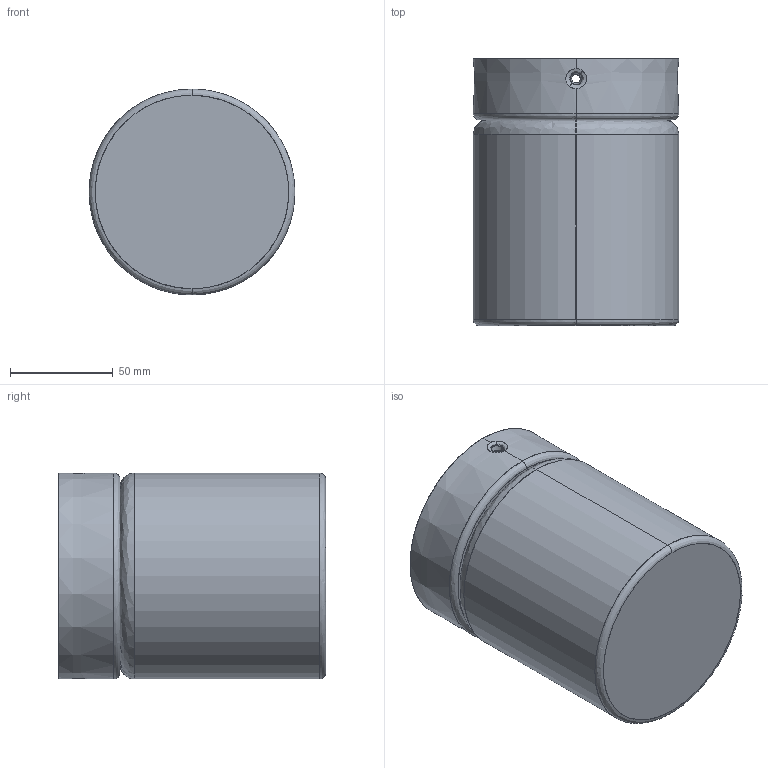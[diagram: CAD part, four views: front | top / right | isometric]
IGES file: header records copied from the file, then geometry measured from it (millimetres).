
Start section: SolidWorks IGES file using analytic representation for surfaces
Global section: file name: Z:\Modele 3D_WWW\_KOLEKCJE_WWW\CAYO-9505-8055\CAYO-9505-8055.IGS; native system: SolidWorks 2021; preprocessor: SolidWorks 2021; author: gabriela.tworek; date: 210716.091104; units: millimetre
Bounding box: 100 x 130 x 100 mm (x, y, z)
Surface area: 110670.9 mm2 (no closed solid volume)
Topology: 0 solids, 0 shells, 109 faces, 1918 edges, 1914 vertices
Faces by surface type: bspline 57, revolution 52
